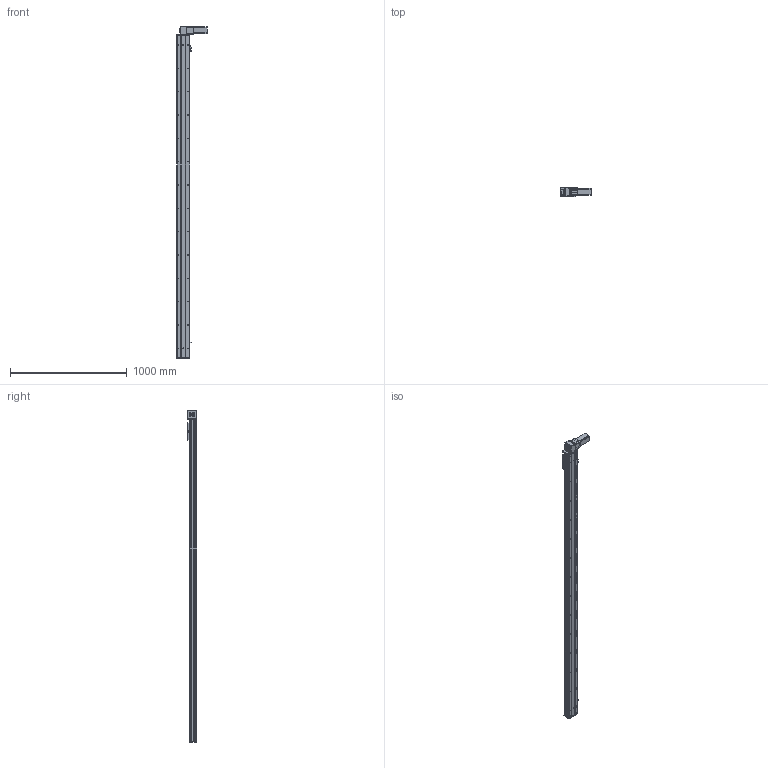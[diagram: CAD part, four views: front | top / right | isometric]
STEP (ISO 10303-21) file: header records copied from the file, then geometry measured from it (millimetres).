
FILE_DESCRIPTION (( 'STEP AP203' ), '1' );
FILE_NAME ('Y10CB-D90-S2500-BD-P400W.STEP', '2020-02-17T03:04:57', ( '微软用户' ), ( '微软中国' ), 'SwSTEP 2.0', 'SolidWorks 2017', '' );
FILE_SCHEMA (( 'CONFIG_CONTROL_DESIGN' ));
Length unit declared in the file: millimetre
Products named in the file (16): 10CB-耜裔; 0Cb-俋欶---; Y135C-陔俋离換覜結え-; Y10B-々湍喘謫眊楊擘啣--; Y100-135俋离換覜ん--; 0B-源倛裔啣; san松下电机400不带刹车----; Y10B--々湍喘謫眊--666; 0B-埴倛裔啣; 0B-薊粣ん眊; 10CB-詩湍-; Y10CB-D90-S2500-BD-P400W; Y10CB- 掛极耜裔啣-毀---; Y10C---詩湍揤啣; 10CB9-掛极; 0CB-雄赽釱---
Assembly tree (19 placements, depth 2):
  Y10CB-D90-S2500-BD-P400W
    0CB-雄赽釱---
    0Cb-俋欶---
    Y10B-々湍喘謫眊楊擘啣--
    san松下电机400不带刹车----
    0B-源倛裔啣
    0B-埴倛裔啣
    10CB-詩湍-
    Y10CB- 掛极耜裔啣-毀---  x2
    Y10C---詩湍揤啣  x2
    10CB9-掛极
    10CB-耜裔
    Y135C-陔俋离換覜結え-
    Y100-135俋离換覜ん--  x3
    Y10B--々湍喘謫眊--666
    0B-薊粣ん眊
Bounding box: 258 x 80.5 x 2846 mm (x, y, z)
Volume: 5753870.6 mm3; surface area: 2688288.1 mm2
Topology: 19 solids, 19 shells, 984 faces, 2662 edges, 1724 vertices
Faces by surface type: cylinder 510, plane 450, cone 24
Entity records: 31069 total; most frequent: CARTESIAN_POINT 5940, DIRECTION 4933, ORIENTED_EDGE 4794, EDGE_CURVE 2397, AXIS2_PLACEMENT_3D 1767, VERTEX_POINT 1550, LINE 1399, VECTOR 1399
